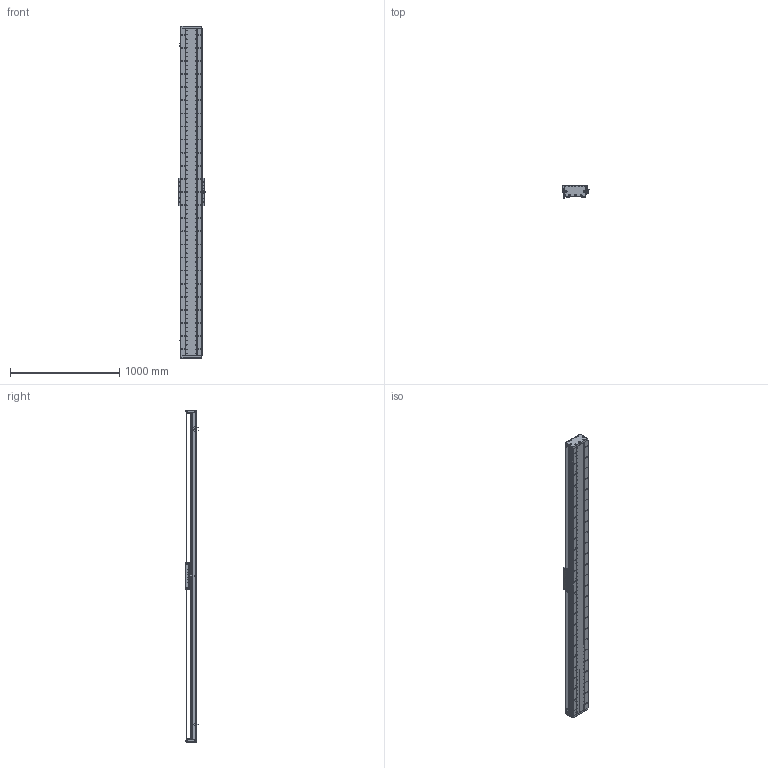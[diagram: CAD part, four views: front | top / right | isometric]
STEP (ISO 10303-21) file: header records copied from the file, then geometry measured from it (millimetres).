
FILE_DESCRIPTION (( 'STEP AP203' ), '1' );
FILE_NAME ('DA-C195-C3-T2700-C010-0.2 眻盄萇儂.STEP', '2025-08-15T01:30:20', ( '' ), ( '' ), 'SwSTEP 2.0', 'SolidWorks 2019', '' );
FILE_SCHEMA (( 'CONFIG_CONTROL_DESIGN' ));
Length unit declared in the file: millimetre
Products named in the file (15): IU-CU195-L 菁釱絳寢; DA195詩湍裔啣; DA195詩湍菜輸; 葩璃 DA95-GT-T-00; DA195詩湍郪璃; DA95-HXJ-00 遣喳砎蝶; DA-C195-C3-T2700-C010-0.2 眻盄萇儂; IU-CU195-L-00 菁釱(L3000); MS200 棠掑喜S315-T240; DA195詩湍嶺輸; PM-T45ㄗ侂狟ㄘ; LMT黍杅芛; CU195-C3賑輸-俋楷; DA165-GYP-00 光电感应片(默认); DA-C195-GD-DB-H-00 傷啣
Assembly tree (29 placements, depth 3):
  DA-C195-C3-T2700-C010-0.2 眻盄萇儂
    DA195詩湍郪璃
      DA195詩湍菜輸  x2
      DA195詩湍裔啣
      DA195詩湍嶺輸  x2
      DA95-HXJ-00 遣喳砎蝶  x8
      DA-C195-GD-DB-H-00 傷啣  x2
    IU-CU195-L 菁釱絳寢
      IU-CU195-L-00 菁釱(L3000)
      葩璃 DA95-GT-T-00  x4
    LMT黍杅芛
    MS200 棠掑喜S315-T240
    PM-T45ㄗ侂狟ㄘ  x3
    DA165-GYP-00 光电感应片(默认)
    CU195-C3賑輸-俋楷
Bounding box: 248 x 115.45 x 3040 mm (x, y, z)
Volume: 17545624.6 mm3; surface area: 5181486.1 mm2
Topology: 86 solids, 118 shells, 4494 faces, 12807 edges, 8097 vertices
Faces by surface type: cylinder 2522, plane 1370, cone 514, torus 52, sphere 36
Entity records: 147819 total; most frequent: CARTESIAN_POINT 41016, ORIENTED_EDGE 22530, DIRECTION 21382, EDGE_CURVE 11265, AXIS2_PLACEMENT_3D 8041, VERTEX_POINT 7299, VECTOR 5300, LINE 5300
